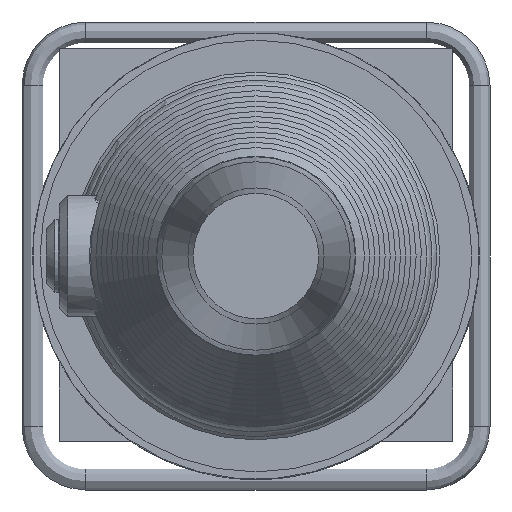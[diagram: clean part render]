
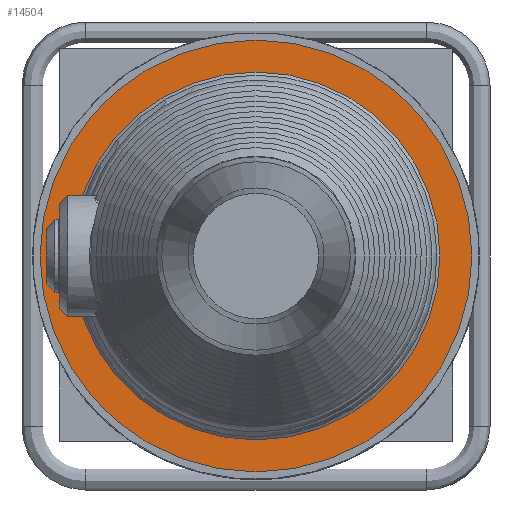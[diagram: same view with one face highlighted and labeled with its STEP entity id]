
A CAD part, left-side view. The second image highlights one B-rep face of the part: STEP entity #14504.
In plain terms, the highlighted planar face has unit normal (-1, 0, 0).
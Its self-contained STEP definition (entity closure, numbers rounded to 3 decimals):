
#1489=PLANE('',#15238);
#3406=FACE_BOUND('',#5129,.T.);
#4205=FACE_OUTER_BOUND('',#5128,.T.);
#5128=EDGE_LOOP('',(#13086));
#5129=EDGE_LOOP('',(#13087));
#5653=CIRCLE('',#15239,101.5);
#5654=CIRCLE('',#15240,86.466);
#7074=VERTEX_POINT('',#34399);
#7075=VERTEX_POINT('',#34401);
#9116=EDGE_CURVE('',#7074,#7074,#5653,.T.);
#9117=EDGE_CURVE('',#7075,#7075,#5654,.T.);
#13086=ORIENTED_EDGE('',*,*,#9116,.F.);
#13087=ORIENTED_EDGE('',*,*,#9117,.T.);
#14504=ADVANCED_FACE('',(#4205,#3406),#1489,.T.);
#15238=AXIS2_PLACEMENT_3D('',#34398,#17522,#17523);
#15239=AXIS2_PLACEMENT_3D('',#34400,#17524,#17525);
#15240=AXIS2_PLACEMENT_3D('',#34402,#17526,#17527);
#17522=DIRECTION('center_axis',(-1.,0.,0.));
#17523=DIRECTION('ref_axis',(0.,1.,0.));
#17524=DIRECTION('center_axis',(1.,0.,0.));
#17525=DIRECTION('ref_axis',(0.,0.,
1.));
#17526=DIRECTION('center_axis',(1.,0.,0.));
#17527=DIRECTION('ref_axis',(0.,0.,
1.));
#34398=CARTESIAN_POINT('Origin',(-192.651,0.,
93.983));
#34399=CARTESIAN_POINT('',(-192.651,0.,101.5));
#34400=CARTESIAN_POINT('Origin',(-192.651,0.,
0.));
#34401=CARTESIAN_POINT('',(-192.651,0.,86.466));
#34402=CARTESIAN_POINT('Origin',(-192.651,0.,
0.));
